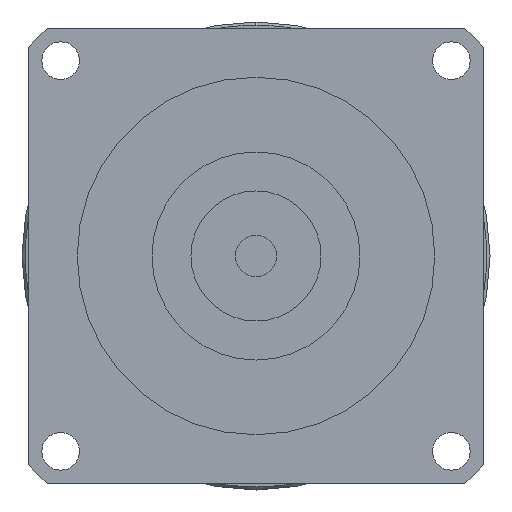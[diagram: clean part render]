
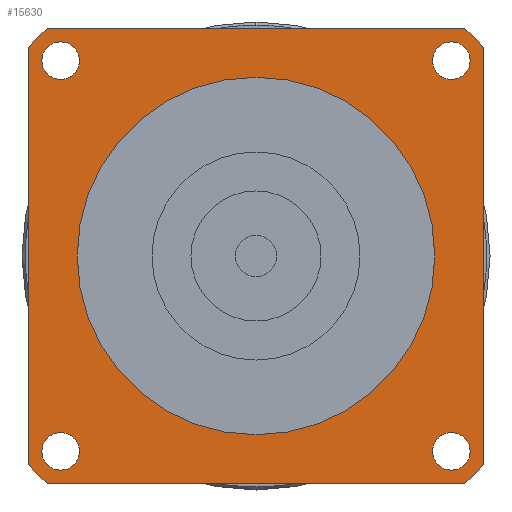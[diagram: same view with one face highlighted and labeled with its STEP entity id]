
A CAD part, left-side view. The second image highlights one B-rep face of the part: STEP entity #15630.
In plain terms, the highlighted planar face has unit normal (-1, 0, 0) as drawn and (0, 0, -1) by its records, which use the part's own axes.
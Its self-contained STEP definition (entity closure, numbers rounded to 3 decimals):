
#12050=CARTESIAN_POINT('',(-35.,32.113,-93.));
#12060=VERTEX_POINT('',#12050);
#12240=CARTESIAN_POINT('',(-35.,-32.113,-93.));
#12250=VERTEX_POINT('',#12240);
#12280=CARTESIAN_POINT('',(-35.,35.,-93.));
#12290=DIRECTION('',(0.,-1.,0.));
#12300=VECTOR('',#12290,1000.);
#12310=LINE('',#12280,#12300);
#12320=EDGE_CURVE('',#12060,#12250,#12310,.T.);
#12480=CARTESIAN_POINT('',(-32.113,35.,-93.));
#12490=VERTEX_POINT('',#12480);
#12600=CARTESIAN_POINT('',(0.,0.,
-93.));
#12610=DIRECTION('',(0.,0.,1.));
#12620=DIRECTION('',(0.,-1.,0.));
#12630=AXIS2_PLACEMENT_3D('',#12600,#12610,#12620);
#12640=CIRCLE('',#12630,47.5);
#12650=EDGE_CURVE('',#12490,#12060,#12640,.T.);
#13940=CARTESIAN_POINT('',(32.113,35.,-93.));
#13950=VERTEX_POINT('',#13940);
#14080=CARTESIAN_POINT('',(35.,35.,-93.));
#14090=DIRECTION('',(-1.,0.,0.));
#14100=VECTOR('',#14090,1000.);
#14110=LINE('',#14080,#14100);
#14120=EDGE_CURVE('',#13950,#12490,#14110,.T.);
#14170=CARTESIAN_POINT('',(-35.,35.,-93.));
#14180=DIRECTION('',(0.,0.,1.));
#14190=DIRECTION('',(-1.,0.,0.));
#14200=AXIS2_PLACEMENT_3D('',#14170,#14180,#14190);
#14210=PLANE('',#14200);
#14220=CARTESIAN_POINT('',(30.052,-30.052,-93.));
#14230=DIRECTION('',(0.,0.,-1.));
#14240=DIRECTION('',(1.,0.,0.));
#14250=AXIS2_PLACEMENT_3D('',#14220,#14230,#14240);
#14260=CIRCLE('',#14250,2.9);
#14270=CARTESIAN_POINT('',(32.952,-30.052,-93.));
#14280=VERTEX_POINT('',#14270);
#14290=CARTESIAN_POINT('',(30.052,-32.952,-93.));
#14300=VERTEX_POINT('',#14290);
#14310=EDGE_CURVE('',#14280,#14300,#14260,.T.);
#14320=ORIENTED_EDGE('',*,*,#14310,.F.);
#14330=CARTESIAN_POINT('',(30.052,-27.152,-93.));
#14340=VERTEX_POINT('',#14330);
#14350=EDGE_CURVE('',#14300,#14340,#14260,.T.);
#14360=ORIENTED_EDGE('',*,*,#14350,.F.);
#14370=EDGE_CURVE('',#14340,#14280,#14260,.T.);
#14380=ORIENTED_EDGE('',*,*,#14370,.F.);
#14390=EDGE_LOOP('',(#14380,#14360,#14320));
#14400=FACE_BOUND('',#14390,.T.);
#14410=CARTESIAN_POINT('',(30.052,30.052,-93.));
#14420=DIRECTION('',(0.,0.,-1.));
#14430=DIRECTION('',(0.,1.,0.));
#14440=AXIS2_PLACEMENT_3D('',#14410,#14420,#14430);
#14450=CIRCLE('',#14440,2.9);
#14460=CARTESIAN_POINT('',(30.052,32.952,-93.));
#14470=VERTEX_POINT('',#14460);
#14480=CARTESIAN_POINT('',(32.952,30.052,-93.));
#14490=VERTEX_POINT('',#14480);
#14500=EDGE_CURVE('',#14470,#14490,#14450,.T.);
#14510=ORIENTED_EDGE('',*,*,#14500,.F.);
#14520=CARTESIAN_POINT('',(27.152,30.052,-93.));
#14530=VERTEX_POINT('',#14520);
#14540=EDGE_CURVE('',#14490,#14530,#14450,.T.);
#14550=ORIENTED_EDGE('',*,*,#14540,.F.);
#14560=EDGE_CURVE('',#14530,#14470,#14450,.T.);
#14570=ORIENTED_EDGE('',*,*,#14560,.F.);
#14580=EDGE_LOOP('',(#14570,#14550,#14510));
#14590=FACE_BOUND('',#14580,.T.);
#14600=CARTESIAN_POINT('',(-30.052,30.052,-93.));
#14610=DIRECTION('',(0.,0.,-1.));
#14620=DIRECTION('',(-1.,0.,0.));
#14630=AXIS2_PLACEMENT_3D('',#14600,#14610,#14620);
#14640=CIRCLE('',#14630,2.9);
#14650=CARTESIAN_POINT('',(-32.952,30.052,-93.));
#14660=VERTEX_POINT('',#14650);
#14670=CARTESIAN_POINT('',(-30.052,32.952,-93.));
#14680=VERTEX_POINT('',#14670);
#14690=EDGE_CURVE('',#14660,#14680,#14640,.T.);
#14700=ORIENTED_EDGE('',*,*,#14690,.F.);
#14710=CARTESIAN_POINT('',(-30.052,27.152,-93.));
#14720=VERTEX_POINT('',#14710);
#14730=EDGE_CURVE('',#14680,#14720,#14640,.T.);
#14740=ORIENTED_EDGE('',*,*,#14730,.F.);
#14750=EDGE_CURVE('',#14720,#14660,#14640,.T.);
#14760=ORIENTED_EDGE('',*,*,#14750,.F.);
#14770=EDGE_LOOP('',(#14760,#14740,#14700));
#14780=FACE_BOUND('',#14770,.T.);
#14790=CARTESIAN_POINT('',(-30.052,-30.052,-93.));
#14800=DIRECTION('',(0.,0.,-1.));
#14810=DIRECTION('',(0.,-1.,0.));
#14820=AXIS2_PLACEMENT_3D('',#14790,#14800,#14810);
#14830=CIRCLE('',#14820,2.9);
#14840=CARTESIAN_POINT('',(-30.052,-32.952,-93.));
#14850=VERTEX_POINT('',#14840);
#14860=CARTESIAN_POINT('',(-32.952,-30.052,-93.));
#14870=VERTEX_POINT('',#14860);
#14880=EDGE_CURVE('',#14850,#14870,#14830,.T.);
#14890=ORIENTED_EDGE('',*,*,#14880,.F.);
#14900=CARTESIAN_POINT('',(-27.152,-30.052,-93.));
#14910=VERTEX_POINT('',#14900);
#14920=EDGE_CURVE('',#14870,#14910,#14830,.T.);
#14930=ORIENTED_EDGE('',*,*,#14920,.F.);
#14940=EDGE_CURVE('',#14910,#14850,#14830,.T.);
#14950=ORIENTED_EDGE('',*,*,#14940,.F.);
#14960=EDGE_LOOP('',(#14950,#14930,#14890));
#14970=FACE_BOUND('',#14960,.T.);
#14980=CARTESIAN_POINT('',(0.,0.,
-93.));
#14990=DIRECTION('',(0.,0.,1.));
#15000=DIRECTION('',(0.,-1.,0.));
#15010=AXIS2_PLACEMENT_3D('',#14980,#14990,#15000);
#15020=CIRCLE('',#15010,47.5);
#15030=CARTESIAN_POINT('',(-32.113,-35.,-93.));
#15040=VERTEX_POINT('',#15030);
#15050=EDGE_CURVE('',#12250,#15040,#15020,.T.);
#15060=ORIENTED_EDGE('',*,*,#15050,.F.);
#15070=CARTESIAN_POINT('',(-35.,-35.,-93.));
#15080=DIRECTION('',(1.,0.,0.));
#15090=VECTOR('',#15080,1000.);
#15100=LINE('',#15070,#15090);
#15110=CARTESIAN_POINT('',(32.113,-35.,-93.));
#15120=VERTEX_POINT('',#15110);
#15130=EDGE_CURVE('',#15040,#15120,#15100,.T.);
#15140=ORIENTED_EDGE('',*,*,#15130,.F.);
#15150=CARTESIAN_POINT('',(0.,0.,
-93.));
#15160=DIRECTION('',(0.,0.,1.));
#15170=DIRECTION('',(0.,-1.,0.));
#15180=AXIS2_PLACEMENT_3D('',#15150,#15160,#15170);
#15190=CIRCLE('',#15180,47.5);
#15200=CARTESIAN_POINT('',(35.,-32.113,-93.));
#15210=VERTEX_POINT('',#15200);
#15220=EDGE_CURVE('',#15120,#15210,#15190,.T.);
#15230=ORIENTED_EDGE('',*,*,#15220,.F.);
#15240=CARTESIAN_POINT('',(35.,-35.,-93.));
#15250=DIRECTION('',(0.,1.,0.));
#15260=VECTOR('',#15250,1000.);
#15270=LINE('',#15240,#15260);
#15280=CARTESIAN_POINT('',(35.,32.113,-93.));
#15290=VERTEX_POINT('',#15280);
#15300=EDGE_CURVE('',#15210,#15290,#15270,.T.);
#15310=ORIENTED_EDGE('',*,*,#15300,.F.);
#15320=CARTESIAN_POINT('',(0.,0.,
-93.));
#15330=DIRECTION('',(0.,0.,1.));
#15340=DIRECTION('',(0.,-1.,0.));
#15350=AXIS2_PLACEMENT_3D('',#15320,#15330,#15340);
#15360=CIRCLE('',#15350,47.5);
#15370=EDGE_CURVE('',#15290,#13950,#15360,.T.);
#15380=ORIENTED_EDGE('',*,*,#15370,.F.);
#15390=ORIENTED_EDGE('',*,*,#14120,.F.);
#15400=ORIENTED_EDGE('',*,*,#12650,.F.);
#15410=ORIENTED_EDGE('',*,*,#12320,.F.);
#15420=EDGE_LOOP('',(#15410,#15400,#15390,#15380,#15310,#15230,#15140,
#15060));
#15430=FACE_OUTER_BOUND('',#15420,.T.);
#15440=CARTESIAN_POINT('',(0.,0.,
-93.));
#15450=DIRECTION('',(0.,0.,1.));
#15460=DIRECTION('',(0.,-1.,0.));
#15470=AXIS2_PLACEMENT_3D('',#15440,#15450,#15460);
#15480=CIRCLE('',#15470,27.5);
#15490=CARTESIAN_POINT('',(27.5,0.,-93.));
#15500=VERTEX_POINT('',#15490);
#15510=CARTESIAN_POINT('',(-27.5,0.,-93.));
#15520=VERTEX_POINT('',#15510);
#15530=EDGE_CURVE('',#15500,#15520,#15480,.T.);
#15540=ORIENTED_EDGE('',*,*,#15530,.T.);
#15550=CARTESIAN_POINT('',(0.,-27.5,-93.));
#15560=VERTEX_POINT('',#15550);
#15570=EDGE_CURVE('',#15560,#15500,#15480,.T.);
#15580=ORIENTED_EDGE('',*,*,#15570,.T.);
#15590=EDGE_CURVE('',#15520,#15560,#15480,.T.);
#15600=ORIENTED_EDGE('',*,*,#15590,.T.);
#15610=EDGE_LOOP('',(#15600,#15580,#15540));
#15620=FACE_BOUND('',#15610,.T.);
#15630=ADVANCED_FACE('',(#14400,#14590,#14780,#14970,#15430,#15620),
#14210,.F.);
